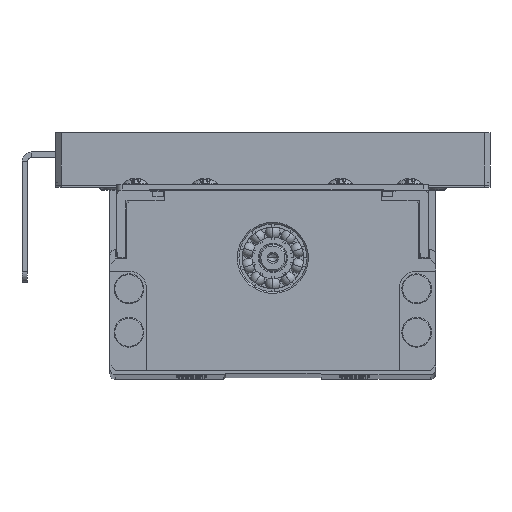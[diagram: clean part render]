
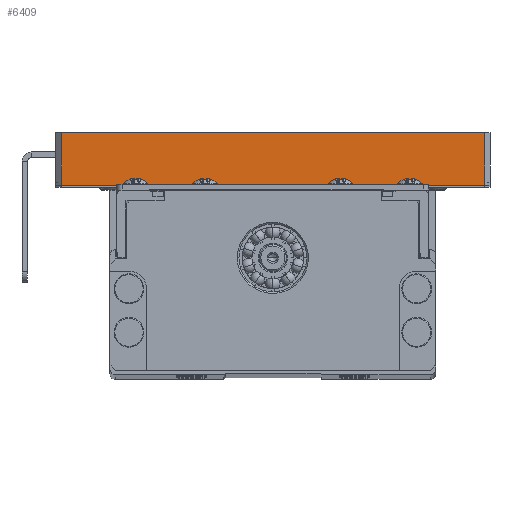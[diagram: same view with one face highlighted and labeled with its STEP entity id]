
A CAD part, top view. The second image highlights one B-rep face of the part: STEP entity #6409.
In plain terms, the highlighted planar face has unit normal (0, 0, 1).
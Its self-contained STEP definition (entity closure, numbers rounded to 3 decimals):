
#2626 = LINE ( 'NONE', #53844, #37873 ) ;
#2815 = LINE ( 'NONE', #39768, #34153 ) ;
#3311 = VERTEX_POINT ( 'NONE', #28141 ) ;
#4549 = EDGE_CURVE ( 'NONE', #14879, #9951, #2815, .T. ) ;
#6409 = ADVANCED_FACE ( 'NONE', ( #30115 ), #34969, .T. ) ;
#7511 = EDGE_LOOP ( 'NONE', ( #41050, #37853, #41954, #31511 ) ) ;
#7697 = LINE ( 'NONE', #49208, #35951 ) ;
#9712 = VERTEX_POINT ( 'NONE', #13009 ) ;
#9951 = VERTEX_POINT ( 'NONE', #52947 ) ;
#11623 = CARTESIAN_POINT ( 'NONE',  ( 0., 46., 40. ) ) ;
#13009 = CARTESIAN_POINT ( 'NONE',  ( 39., 46., 40. ) ) ;
#14879 = VERTEX_POINT ( 'NONE', #41728 ) ;
#28141 = CARTESIAN_POINT ( 'NONE',  ( -39., 46., 40. ) ) ;
#28427 = AXIS2_PLACEMENT_3D ( 'NONE', #11623, #40086, #57698 ) ;
#28543 = CARTESIAN_POINT ( 'NONE',  ( -39., 36.3, 40. ) ) ;
#30115 = FACE_OUTER_BOUND ( 'NONE', #7511, .T. ) ;
#31511 = ORIENTED_EDGE ( 'NONE', *, *, #49452, .T. ) ;
#32836 = DIRECTION ( 'NONE',  ( 1., 0., 0. ) ) ;
#34153 = VECTOR ( 'NONE', #54023, 1000. ) ;
#34969 = PLANE ( 'NONE',  #28427 ) ;
#35951 = VECTOR ( 'NONE', #32836, 1000. ) ;
#37853 = ORIENTED_EDGE ( 'NONE', *, *, #46847, .T. ) ;
#37873 = VECTOR ( 'NONE', #44735, 1000. ) ;
#39768 = CARTESIAN_POINT ( 'NONE',  ( -40., 36.3, 40. ) ) ;
#40086 = DIRECTION ( 'NONE',  ( 0., 0., 1. ) ) ;
#41050 = ORIENTED_EDGE ( 'NONE', *, *, #4549, .F. ) ;
#41728 = CARTESIAN_POINT ( 'NONE',  ( 39., 36.3, 40. ) ) ;
#41954 = ORIENTED_EDGE ( 'NONE', *, *, #45025, .F. ) ;
#42484 = DIRECTION ( 'NONE',  ( 0., -1., 0. ) ) ;
#44735 = DIRECTION ( 'NONE',  ( 0., 1., 0. ) ) ;
#45025 = EDGE_CURVE ( 'NONE', #3311, #9712, #7697, .T. ) ;
#46847 = EDGE_CURVE ( 'NONE', #14879, #9712, #2626, .T. ) ;
#47861 = VECTOR ( 'NONE', #42484, 1000. ) ;
#49208 = CARTESIAN_POINT ( 'NONE',  ( 40., 46., 40. ) ) ;
#49452 = EDGE_CURVE ( 'NONE', #3311, #9951, #51596, .T. ) ;
#51596 = LINE ( 'NONE', #28543, #47861 ) ;
#52947 = CARTESIAN_POINT ( 'NONE',  ( -39., 36.3, 40. ) ) ;
#53844 = CARTESIAN_POINT ( 'NONE',  ( 39., 46., 40. ) ) ;
#54023 = DIRECTION ( 'NONE',  ( -1., 0., 0. ) ) ;
#57698 = DIRECTION ( 'NONE',  ( 1., 0., 0. ) ) ;
